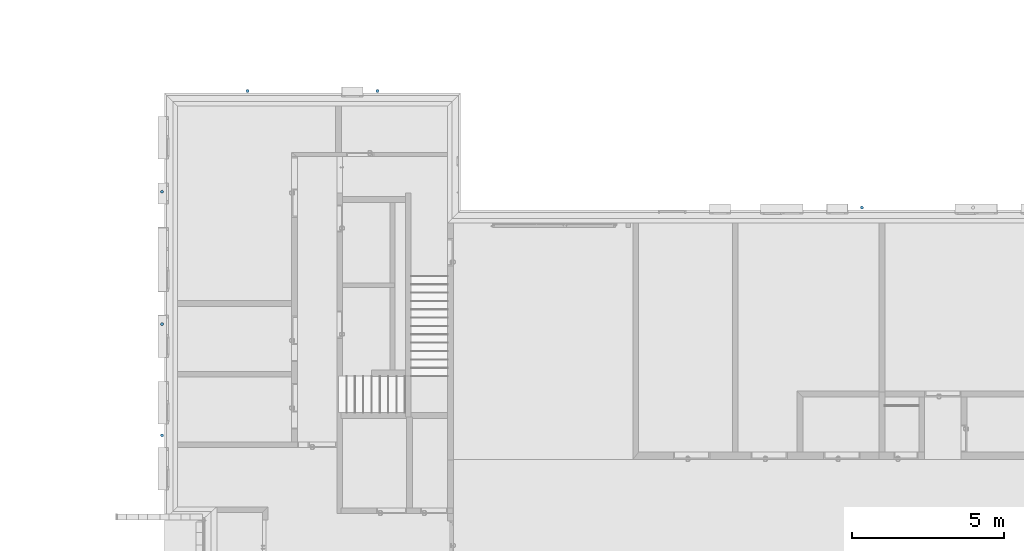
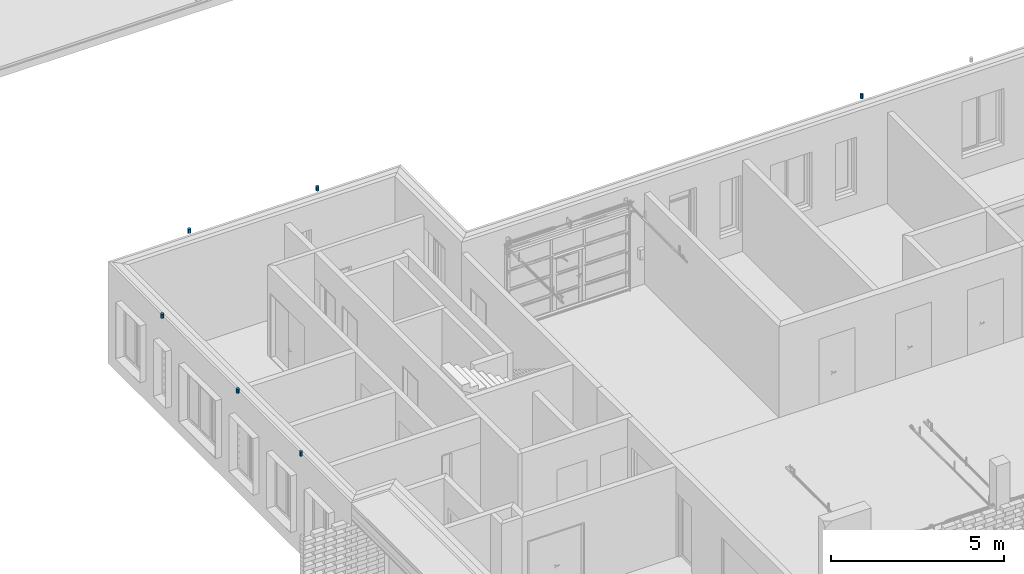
# One storey, part 4 of 62: 6 columns.
"""IFC2X3 building model written with IfcOpenShell, lengths in millimetres."""

from ifc_helpers import new_model, entity, si_unit, converted_unit, derived_unit, money_unit, direction, frame, origin_with_axes, origin_2d_with_axis, place, context, subcontext, project, spatial, circle, extrude, material, type_object, element, save


model = new_model("IFC2X3")

# Units and contexts
model_context = context("Model", 3, precision=0.01, world=origin_with_axes(), true_north=direction((0.0, 1.0)))
body_context = subcontext(model_context, "Body", "Model", "MODEL_VIEW")
ifc_project = project(units=[si_unit("LENGTHUNIT", "METRE", prefix="MILLI"), si_unit("AREAUNIT", "SQUARE_METRE"), si_unit("VOLUMEUNIT", "CUBIC_METRE"), converted_unit("PLANEANGLEUNIT", "DEGREE", entity("IfcPlaneAngleMeasure", 0.0174532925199), si_unit("PLANEANGLEUNIT", "RADIAN"), dimensions=[0, 0, 0, 0, 0, 0, 0]), si_unit("SOLIDANGLEUNIT", "STERADIAN"), money_unit("EUR"), converted_unit("TIMEUNIT", "Year", entity("IfcTimeMeasure", 31556926.0), si_unit("TIMEUNIT", "SECOND"), dimensions=[0, 0, 1, 0, 0, 0, 0]), si_unit("MASSUNIT", "GRAM", prefix="KILO"), si_unit("THERMODYNAMICTEMPERATUREUNIT", "DEGREE_CELSIUS"), si_unit("LUMINOUSINTENSITYUNIT", "LUMEN"), si_unit("ENERGYUNIT", "JOULE", prefix="MEGA"), derived_unit("THERMALCONDUCTANCEUNIT", [(si_unit("POWERUNIT", "WATT"), 1), (si_unit("LENGTHUNIT", "METRE"), -1), (si_unit("THERMODYNAMICTEMPERATUREUNIT", "KELVIN"), -1)]), derived_unit("SPECIFICHEATCAPACITYUNIT", [(si_unit("ENERGYUNIT", "JOULE"), 1), (si_unit("MASSUNIT", "GRAM", prefix="KILO"), -1), (si_unit("THERMODYNAMICTEMPERATUREUNIT", "KELVIN"), -1)]), derived_unit("MASSDENSITYUNIT", [(si_unit("MASSUNIT", "GRAM", prefix="KILO"), 1), (si_unit("VOLUMEUNIT", "CUBIC_METRE"), -1)])], contexts=[model_context])

# Site, building, storey
site_placement = place(None, origin_with_axes())
site = spatial("IfcSite", under=ifc_project, at=site_placement, Name="KIRDE 14, ELVA", CompositionType="ELEMENT")
building_placement = place(site_placement, origin_with_axes())
building = spatial("IfcBuilding", under=site, at=building_placement, Name="PPA ja Päästeameti ühishoone", CompositionType="ELEMENT")
storey_placement = place(building_placement, origin_with_axes())
storey = spatial("IfcBuildingStorey", under=building, at=storey_placement, Name="Esimene korrus", CompositionType="ELEMENT", Elevation=0.0)

# Columns
ifc_material = material(Name="SBS Rullmaterjal")
column_type = type_object("IfcColumnType", Name="SBS Rullmaterjal D100", PredefinedType="COLUMN")
column_1_placement = place(storey_placement, frame((-503.45167617, 13754.2037349, 3613.05755188), z_axis=(0.0, 0.0, 1.0), x_axis=(-2.02994425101e-08, 1.0, 0.0)))
element("IfcColumn", 1, at=column_1_placement, inside=storey, type_object=column_type, material=ifc_material, Name="RB post", ObjectType="COLUMN", context=body_context, shape_type="SweptSolid", body=[
    extrude(circle(Radius=50.0, at=origin_2d_with_axis()), origin_with_axes(), (0.0, 0.0, 1.0), 150.0),
])
column_2_placement = place(storey_placement, frame((2311.21886839, 25093.2909044, 3613.05755188), z_axis=(0.0, 0.0, 1.0), x_axis=(1.0, 0.0, 0.0)))
element("IfcColumn", 2, at=column_2_placement, inside=storey, type_object=column_type, material=ifc_material, Name="RB post", ObjectType="COLUMN", context=body_context, shape_type="SweptSolid", body=[
    extrude(circle(Radius=50.0, at=origin_2d_with_axis()), frame((0.0, 0.0, 0.0), z_axis=(0.0, 0.0, -1.0), x_axis=(-1.0, 0.0, 0.0)), (0.0, 0.0, -1.0), 150.0),
])
for number, where, z_axis, x_axis, name in (
    (3, (-503.45167617, 17414.2037349, 3613.05755188), (0.0, 0.0, 1.0), (-2.02994425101e-08, 1.0, 0.0), "RB post"),
    (4, (-503.45167617, 21774.9687858, 3613.05755188), (0.0, 0.0, 1.0), (-2.02994425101e-08, 1.0, 0.0), "RB post"),
    (5, (6588.78125464, 25093.2909044, 3613.05755188), (0.0, 0.0, 1.0), (1.0, 0.0, 0.0), "RB post"),
):
    element("IfcColumn", number, at=place(storey_placement, frame(where, z_axis=z_axis, x_axis=x_axis)), inside=storey, type_object=column_type, material=ifc_material, Name=name, ObjectType="COLUMN", context=body_context, shape_type="SweptSolid", body=[
        extrude(circle(Radius=50.0, at=origin_2d_with_axis()), origin_with_axes(), (0.0, 0.0, 1.0), 150.0),
    ])
column_3_placement = place(storey_placement, frame((22542.3757691, 21254.7181788, 3613.05755188), z_axis=(0.0, 0.0, 1.0), x_axis=(-1.0, 1.98808006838e-08, 0.0)))
element("IfcColumn", 6, at=column_3_placement, inside=storey, type_object=column_type, material=ifc_material, Name="RB post", ObjectType="COLUMN", context=body_context, shape_type="SweptSolid", body=[
    extrude(circle(Radius=50.0, at=origin_2d_with_axis()), frame((0.0, 0.0, 0.0), z_axis=(0.0, 0.0, -1.0), x_axis=(-1.0, 0.0, 0.0)), (0.0, 0.0, -1.0), 150.0),
])

save(model, "model.ifc")
